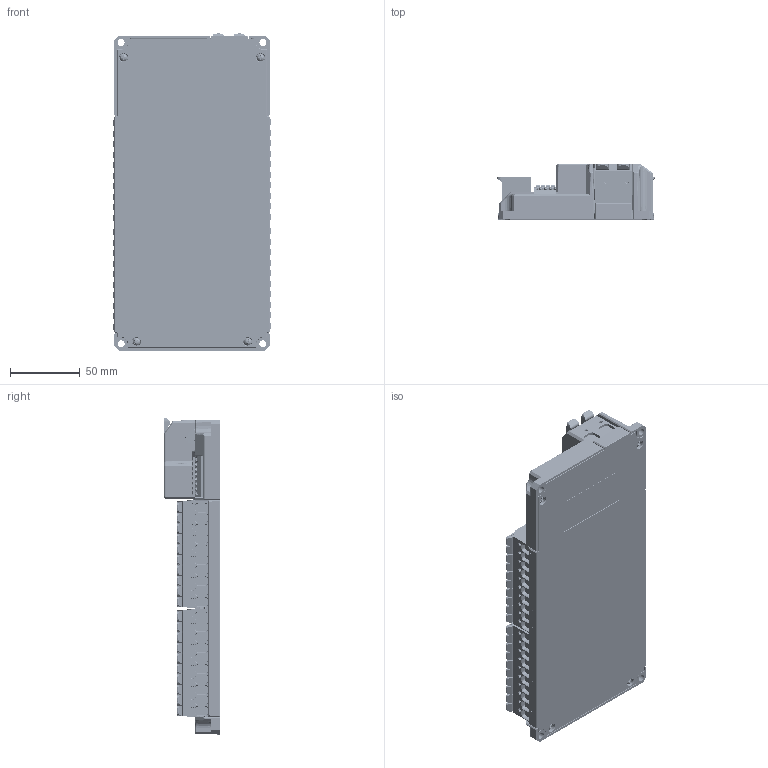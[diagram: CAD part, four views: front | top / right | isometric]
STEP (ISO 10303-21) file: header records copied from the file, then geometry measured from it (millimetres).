
FILE_DESCRIPTION(/* description */ (''),/* implementation_level */ '2;1');
FILE_NAME(/* name */ 'Power Distribution Hub .step',/* time_stamp */ '2022-12-29T16:12:29-08:00',/* author */ (''),/* organization */ (''),/* preprocessor_version */ 'ST-DEVELOPER v19.2',/* originating_system */ 'Autodesk Translation Framework v11.17.0.187',/* authorisation */ '');
FILE_SCHEMA (('AUTOMOTIVE_DESIGN { 1 0 10303 214 3 1 1 }'));
Products named in the file (1): Power Distribution Hub
Bounding box: 112.73 x 39.72 x 227.12 mm (x, y, z)
Volume: 346200.6 mm3; surface area: 367158.3 mm2
Topology: 403 solids, 403 shells, 23757 faces, 66284 edges, 43376 vertices
Faces by surface type: plane 13290, cylinder 6286, bspline 2777, cone 1201, sphere 169, torus 34
Full cylindrical faces by diameter (mm): 0.5 x2, 0.66 x1, 0.7 x61, 0.991 x33, 1 x3, 1.016 x20, 1.2 x36, 1.4 x3, 1.475 x12, 1.5 x51, 1.6 x22, 1.8 x20, 2 x80, 2.2 x84, 2.5 x5, 2.54 x80, 3 x3, 3.2 x4, 3.5 x6, 5 x4, 5.3 x4
Entity records: 809550 total; most frequent: CARTESIAN_POINT 202616, ORIENTED_EDGE 132362, DIRECTION 118701, EDGE_CURVE 66181, LINE 43735, VECTOR 43735, VERTEX_POINT 43376, AXIS2_PLACEMENT_3D 37483
